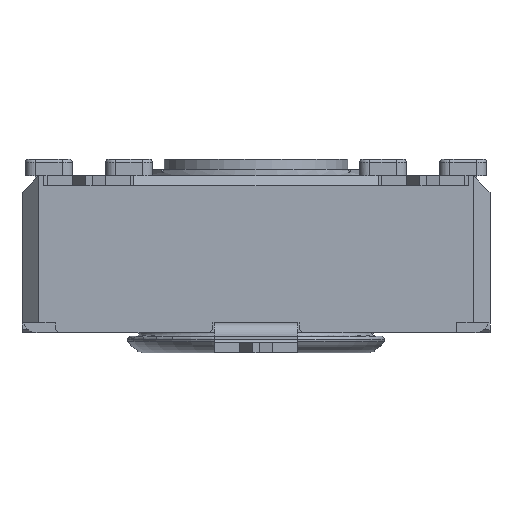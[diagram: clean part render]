
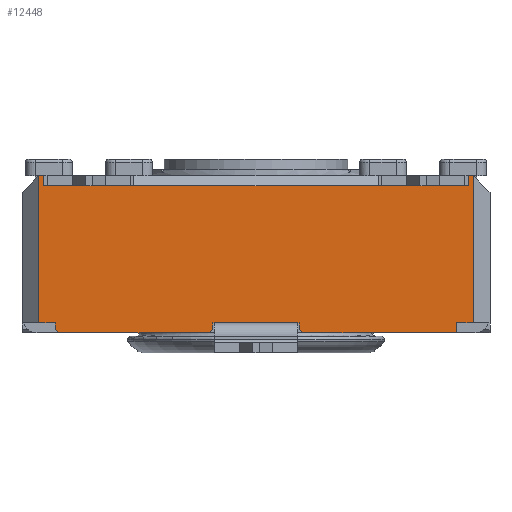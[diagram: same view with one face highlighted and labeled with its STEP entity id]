
A CAD part, front view. The second image highlights one B-rep face of the part: STEP entity #12448.
In plain terms, the highlighted planar face has unit normal (0, -1, 0).
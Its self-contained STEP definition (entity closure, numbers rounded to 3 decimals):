
#192=PLANE('',#13159);
#691=FACE_OUTER_BOUND('',#1356,.T.);
#1356=EDGE_LOOP('',(#8630,#8631,#8632,#8633,#8634,#8635,#8636,#8637,#8638,
#8639,#8640,#8641,#8642,#8643,#8644,#8645,#8646,#8647,#8648,#8649,#8650,
#8651,#8652,#8653,#8654,#8655,#8656));
#2031=LINE('',#17693,#3508);
#2044=LINE('',#17727,#3521);
#2049=LINE('',#17737,#3526);
#2127=LINE('',#17896,#3604);
#2152=LINE('',#17947,#3629);
#2178=LINE('',#18011,#3655);
#2179=LINE('',#18013,#3656);
#2180=LINE('',#18015,#3657);
#2181=LINE('',#18016,#3658);
#2182=LINE('',#18018,#3659);
#2183=LINE('',#18020,#3660);
#2184=LINE('',#18022,#3661);
#2185=LINE('',#18024,#3662);
#2186=LINE('',#18025,#3663);
#2187=LINE('',#18027,#3664);
#2188=LINE('',#18029,#3665);
#2189=LINE('',#18031,#3666);
#2190=LINE('',#18033,#3667);
#2191=LINE('',#18035,#3668);
#2192=LINE('',#18037,#3669);
#2193=LINE('',#18039,#3670);
#2194=LINE('',#18041,#3671);
#2195=LINE('',#18043,#3672);
#2196=LINE('',#18044,#3673);
#2197=LINE('',#18046,#3674);
#2198=LINE('',#18048,#3675);
#2199=LINE('',#18049,#3676);
#3508=VECTOR('',#14194,10.);
#3521=VECTOR('',#14233,10.);
#3526=VECTOR('',#14238,10.);
#3604=VECTOR('',#14340,10.);
#3629=VECTOR('',#14381,10.);
#3655=VECTOR('',#14429,10.);
#3656=VECTOR('',#14430,10.);
#3657=VECTOR('',#14431,10.);
#3658=VECTOR('',#14432,10.);
#3659=VECTOR('',#14433,10.);
#3660=VECTOR('',#14434,10.);
#3661=VECTOR('',#14435,10.);
#3662=VECTOR('',#14436,10.);
#3663=VECTOR('',#14437,10.);
#3664=VECTOR('',#14438,10.);
#3665=VECTOR('',#14439,10.);
#3666=VECTOR('',#14440,10.);
#3667=VECTOR('',#14441,10.);
#3668=VECTOR('',#14442,10.);
#3669=VECTOR('',#14443,10.);
#3670=VECTOR('',#14444,10.);
#3671=VECTOR('',#14445,10.);
#3672=VECTOR('',#14446,10.);
#3673=VECTOR('',#14447,10.);
#3674=VECTOR('',#14448,10.);
#3675=VECTOR('',#14449,10.);
#3676=VECTOR('',#14450,10.);
#5285=VERTEX_POINT('',#17671);
#5293=VERTEX_POINT('',#17692);
#5301=VERTEX_POINT('',#17726);
#5305=VERTEX_POINT('',#17734);
#5306=VERTEX_POINT('',#17736);
#5374=VERTEX_POINT('',#17893);
#5375=VERTEX_POINT('',#17895);
#5392=VERTEX_POINT('',#17944);
#5393=VERTEX_POINT('',#17946);
#5420=VERTEX_POINT('',#18010);
#5421=VERTEX_POINT('',#18012);
#5422=VERTEX_POINT('',#18014);
#5423=VERTEX_POINT('',#18017);
#5424=VERTEX_POINT('',#18019);
#5425=VERTEX_POINT('',#18021);
#5426=VERTEX_POINT('',#18023);
#5427=VERTEX_POINT('',#18026);
#5428=VERTEX_POINT('',#18028);
#5429=VERTEX_POINT('',#18030);
#5430=VERTEX_POINT('',#18032);
#5431=VERTEX_POINT('',#18034);
#5432=VERTEX_POINT('',#18036);
#5433=VERTEX_POINT('',#18038);
#5434=VERTEX_POINT('',#18040);
#5435=VERTEX_POINT('',#18042);
#5436=VERTEX_POINT('',#18045);
#5437=VERTEX_POINT('',#18047);
#6508=EDGE_CURVE('',#5285,#5293,#2031,.T.);
#6525=EDGE_CURVE('',#5301,#5285,#2044,.T.);
#6530=EDGE_CURVE('',#5306,#5305,#2049,.T.);
#6609=EDGE_CURVE('',#5375,#5374,#2127,.T.);
#6634=EDGE_CURVE('',#5393,#5392,#2152,.T.);
#6666=EDGE_CURVE('',#5374,#5420,#2178,.T.);
#6667=EDGE_CURVE('',#5420,#5421,#2179,.T.);
#6668=EDGE_CURVE('',#5421,#5422,#2180,.T.);
#6669=EDGE_CURVE('',#5306,#5422,#2181,.T.);
#6670=EDGE_CURVE('',#5305,#5423,#2182,.T.);
#6671=EDGE_CURVE('',#5424,#5423,#2183,.T.);
#6672=EDGE_CURVE('',#5424,#5425,#2184,.T.);
#6673=EDGE_CURVE('',#5426,#5425,#2185,.T.);
#6674=EDGE_CURVE('',#5301,#5426,#2186,.T.);
#6675=EDGE_CURVE('',#5293,#5427,#2187,.T.);
#6676=EDGE_CURVE('',#5427,#5428,#2188,.T.);
#6677=EDGE_CURVE('',#5429,#5428,#2189,.T.);
#6678=EDGE_CURVE('',#5429,#5430,#2190,.T.);
#6679=EDGE_CURVE('',#5430,#5431,#2191,.T.);
#6680=EDGE_CURVE('',#5431,#5432,#2192,.T.);
#6681=EDGE_CURVE('',#5433,#5432,#2193,.T.);
#6682=EDGE_CURVE('',#5433,#5434,#2194,.T.);
#6683=EDGE_CURVE('',#5434,#5435,#2195,.T.);
#6684=EDGE_CURVE('',#5435,#5393,#2196,.T.);
#6685=EDGE_CURVE('',#5392,#5436,#2197,.T.);
#6686=EDGE_CURVE('',#5437,#5436,#2198,.T.);
#6687=EDGE_CURVE('',#5437,#5375,#2199,.T.);
#8630=ORIENTED_EDGE('',*,*,#6609,.T.);
#8631=ORIENTED_EDGE('',*,*,#6666,.T.);
#8632=ORIENTED_EDGE('',*,*,#6667,.T.);
#8633=ORIENTED_EDGE('',*,*,#6668,.T.);
#8634=ORIENTED_EDGE('',*,*,#6669,.F.);
#8635=ORIENTED_EDGE('',*,*,#6530,.T.);
#8636=ORIENTED_EDGE('',*,*,#6670,.T.);
#8637=ORIENTED_EDGE('',*,*,#6671,.F.);
#8638=ORIENTED_EDGE('',*,*,#6672,.T.);
#8639=ORIENTED_EDGE('',*,*,#6673,.F.);
#8640=ORIENTED_EDGE('',*,*,#6674,.F.);
#8641=ORIENTED_EDGE('',*,*,#6525,.T.);
#8642=ORIENTED_EDGE('',*,*,#6508,.T.);
#8643=ORIENTED_EDGE('',*,*,#6675,.T.);
#8644=ORIENTED_EDGE('',*,*,#6676,.T.);
#8645=ORIENTED_EDGE('',*,*,#6677,.F.);
#8646=ORIENTED_EDGE('',*,*,#6678,.T.);
#8647=ORIENTED_EDGE('',*,*,#6679,.T.);
#8648=ORIENTED_EDGE('',*,*,#6680,.T.);
#8649=ORIENTED_EDGE('',*,*,#6681,.F.);
#8650=ORIENTED_EDGE('',*,*,#6682,.T.);
#8651=ORIENTED_EDGE('',*,*,#6683,.T.);
#8652=ORIENTED_EDGE('',*,*,#6684,.T.);
#8653=ORIENTED_EDGE('',*,*,#6634,.T.);
#8654=ORIENTED_EDGE('',*,*,#6685,.T.);
#8655=ORIENTED_EDGE('',*,*,#6686,.F.);
#8656=ORIENTED_EDGE('',*,*,#6687,.T.);
#12448=ADVANCED_FACE('',(#691),#192,.T.);
#13159=AXIS2_PLACEMENT_3D('',#18009,#14427,#14428);
#14194=DIRECTION('',(1.,0.,0.));
#14233=DIRECTION('',(1.,0.,0.));
#14238=DIRECTION('',(1.,0.,0.));
#14340=DIRECTION('',(-1.,0.,0.));
#14381=DIRECTION('',(-1.,0.,0.));
#14427=DIRECTION('center_axis',(0.,-1.,0.));
#14428=DIRECTION('ref_axis',(0.,0.,-1.));
#14429=DIRECTION('',(-1.,0.,0.));
#14430=DIRECTION('',(0.,0.,1.));
#14431=DIRECTION('',(-1.,0.,0.));
#14432=DIRECTION('',(0.,0.,1.));
#14433=DIRECTION('',(0.,0.,-1.));
#14434=DIRECTION('',(-0.707,0.,0.707));
#14435=DIRECTION('',(1.,0.,0.));
#14436=DIRECTION('',(-0.707,0.,-0.707));
#14437=DIRECTION('',(0.,0.,-1.));
#14438=DIRECTION('',(1.,0.,0.));
#14439=DIRECTION('',(0.,0.,-1.));
#14440=DIRECTION('',(-0.707,0.,0.707));
#14441=DIRECTION('',(1.,0.,0.));
#14442=DIRECTION('',(0.,0.,1.));
#14443=DIRECTION('',(1.,0.,0.));
#14444=DIRECTION('',(0.,0.,-1.));
#14445=DIRECTION('',(-1.,0.,0.));
#14446=DIRECTION('',(0.,0.,-1.));
#14447=DIRECTION('',(-1.,0.,0.));
#14448=DIRECTION('',(-1.,0.,0.));
#14449=DIRECTION('',(1.,0.,0.));
#14450=DIRECTION('',(-1.,0.,0.));
#17671=CARTESIAN_POINT('',(-8.717,-9.898,0.));
#17692=CARTESIAN_POINT('',(-6.217,-9.898,0.));
#17693=CARTESIAN_POINT('',(-14.467,-9.898,0.));
#17726=CARTESIAN_POINT('',(-8.767,-9.898,0.));
#17727=CARTESIAN_POINT('',(-14.467,-9.898,0.));
#17734=CARTESIAN_POINT('',(-13.467,-9.898,0.));
#17736=CARTESIAN_POINT('',(-13.967,-9.898,0.));
#17737=CARTESIAN_POINT('',(-7.245,-9.898,0.));
#17893=CARTESIAN_POINT('',(-13.717,-9.898,4.1));
#17895=CARTESIAN_POINT('',(-11.217,-9.898,4.1));
#17896=CARTESIAN_POINT('',(-6.467,-9.898,4.1));
#17944=CARTESIAN_POINT('',(-3.717,-9.898,4.1));
#17946=CARTESIAN_POINT('',(-1.217,-9.898,4.1));
#17947=CARTESIAN_POINT('',(-1.467,-9.898,4.1));
#18009=CARTESIAN_POINT('Origin',(-0.467,-9.898,0.));
#18010=CARTESIAN_POINT('',(-13.817,-9.898,4.1));
#18011=CARTESIAN_POINT('',(-3.944,-9.898,4.1));
#18012=CARTESIAN_POINT('',(-13.817,-9.898,4.4));
#18013=CARTESIAN_POINT('',(-13.817,-9.898,2.2));
#18014=CARTESIAN_POINT('',(-13.967,-9.898,4.4));
#18015=CARTESIAN_POINT('',(-14.467,-9.898,4.4));
#18016=CARTESIAN_POINT('',(-13.967,-9.898,0.));
#18017=CARTESIAN_POINT('',(-13.467,-9.898,-0.2));
#18018=CARTESIAN_POINT('',(-13.467,-9.898,-0.15));
#18019=CARTESIAN_POINT('',(-13.367,-9.898,-0.3));
#18020=CARTESIAN_POINT('',(-10.242,-9.898,-3.425));
#18021=CARTESIAN_POINT('',(-8.867,-9.898,-0.3));
#18022=CARTESIAN_POINT('',(-0.467,-9.898,-0.3));
#18023=CARTESIAN_POINT('',(-8.767,-9.898,-0.2));
#18024=CARTESIAN_POINT('',(-6.667,-9.898,1.9));
#18025=CARTESIAN_POINT('',(-8.767,-9.898,0.));
#18026=CARTESIAN_POINT('',(-6.167,-9.898,0.));
#18027=CARTESIAN_POINT('',(-14.467,-9.898,0.));
#18028=CARTESIAN_POINT('',(-6.167,-9.898,-0.2));
#18029=CARTESIAN_POINT('',(-6.167,-9.898,0.));
#18030=CARTESIAN_POINT('',(-6.067,-9.898,-0.3));
#18031=CARTESIAN_POINT('',(-4.767,-9.898,-1.6));
#18032=CARTESIAN_POINT('',(-1.467,-9.898,-0.3));
#18033=CARTESIAN_POINT('',(-0.467,-9.898,-0.3));
#18034=CARTESIAN_POINT('',(-1.467,-9.898,0.));
#18035=CARTESIAN_POINT('',(-1.467,-9.898,-0.15));
#18036=CARTESIAN_POINT('',(-0.967,-9.898,0.));
#18037=CARTESIAN_POINT('',(-0.646,-9.898,0.));
#18038=CARTESIAN_POINT('',(-0.967,-9.898,4.4));
#18039=CARTESIAN_POINT('',(-0.967,-9.898,0.));
#18040=CARTESIAN_POINT('',(-1.117,-9.898,4.4));
#18041=CARTESIAN_POINT('',(-14.467,-9.898,4.4));
#18042=CARTESIAN_POINT('',(-1.117,-9.898,4.1));
#18043=CARTESIAN_POINT('',(-1.117,-9.898,2.2));
#18044=CARTESIAN_POINT('',(-1.862,-9.898,4.1));
#18045=CARTESIAN_POINT('',(-3.817,-9.898,4.1));
#18046=CARTESIAN_POINT('',(-1.862,-9.898,4.1));
#18047=CARTESIAN_POINT('',(-11.117,-9.898,4.1));
#18048=CARTESIAN_POINT('',(-3.967,-9.898,4.1));
#18049=CARTESIAN_POINT('',(-3.944,-9.898,4.1));
